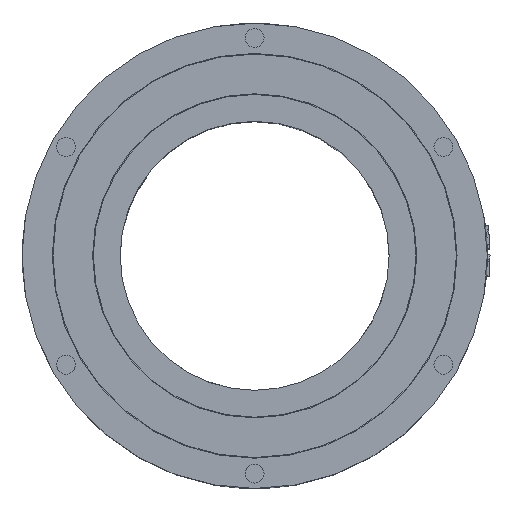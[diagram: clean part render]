
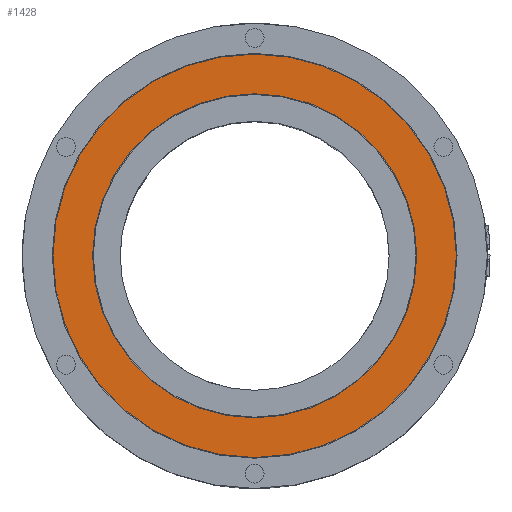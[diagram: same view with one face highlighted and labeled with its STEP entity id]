
A CAD part, top view. The second image highlights one B-rep face of the part: STEP entity #1428.
In plain terms, the highlighted planar face has unit normal (0, 0, 1).
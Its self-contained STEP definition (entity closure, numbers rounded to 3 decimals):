
#1428=ADVANCED_FACE('',(#2722,#2723),#1678,.F.);
#1678=PLANE('',#7132);
#2722=FACE_BOUND('',#3177,.T.);
#2723=FACE_BOUND('',#3178,.T.);
#3177=EDGE_LOOP('',(#4690));
#3178=EDGE_LOOP('',(#4691));
#4690=ORIENTED_EDGE('',*,*,#6668,.F.);
#4691=ORIENTED_EDGE('',*,*,#6669,.F.);
#5773=VERTEX_POINT('',#15313);
#5774=VERTEX_POINT('',#15316);
#6668=EDGE_CURVE('',#5773,#5773,#6870,.T.);
#6669=EDGE_CURVE('',#5774,#5774,#6871,.T.);
#6870=CIRCLE('',#7129,75.);
#6871=CIRCLE('',#7131,60.25);
#7129=AXIS2_PLACEMENT_3D('',#15312,#8182,#8183);
#7131=AXIS2_PLACEMENT_3D('',#15315,#8186,#8187);
#7132=AXIS2_PLACEMENT_3D('',#15317,#8188,#8189);
#8182=DIRECTION('',(0.,0.,-1.));
#8183=DIRECTION('',(1.,0.,0.));
#8186=DIRECTION('',(0.,0.,1.));
#8187=DIRECTION('',(-1.,0.,0.));
#8188=DIRECTION('',(0.,0.,-1.));
#8189=DIRECTION('',(-1.,0.,0.));
#15312=CARTESIAN_POINT('',(0.,0.,105.));
#15313=CARTESIAN_POINT('',(75.,0.,105.));
#15315=CARTESIAN_POINT('',(0.,0.,105.));
#15316=CARTESIAN_POINT('',(-60.25,0.,105.));
#15317=CARTESIAN_POINT('',(0.,0.,105.));
